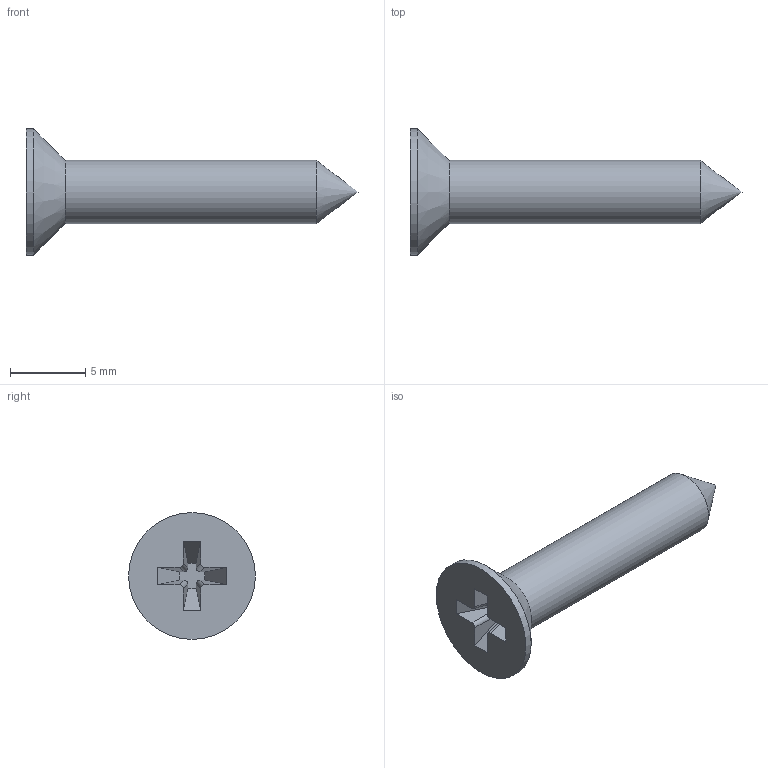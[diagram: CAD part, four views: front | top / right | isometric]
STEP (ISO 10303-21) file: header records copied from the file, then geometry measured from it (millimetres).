
FILE_DESCRIPTION (( 'STEP AP203' ), '1' );
FILE_NAME ('Vis à tôle tête conique empreinte cruciforme DIN 7050 - ST4.2 x 22 - C - H.STEP', '2026-06-24T07:29:49', ( '' ), ( '' ), 'SwSTEP 2.0', 'SolidWorks 2024', '' );
FILE_SCHEMA (( 'CONFIG_CONTROL_DESIGN' ));
Length unit declared in the file: millimetre
Products named in the file (1): Vis à tôle tête conique empreinte cruciforme DIN 7050 - ST4.2 x 22 - C - H_Tapping screw DIN 7982-ST4.2x22-C-H-C
Bounding box: 22 x 8.4 x 8.4 mm (x, y, z)
Volume: 328.4 mm3; surface area: 389.1 mm2
Topology: 1 solids, 1 shells, 22 faces, 58 edges, 38 vertices
Faces by surface type: plane 14, bspline 4, cylinder 2, cone 2
Full cylindrical faces by diameter (mm): 4.2 x1, 8.4 x1
Entity records: 755 total; most frequent: CARTESIAN_POINT 175, ORIENTED_EDGE 104, DIRECTION 94, EDGE_CURVE 52, VECTOR 40, LINE 40, VERTEX_POINT 36, AXIS2_PLACEMENT_3D 27
